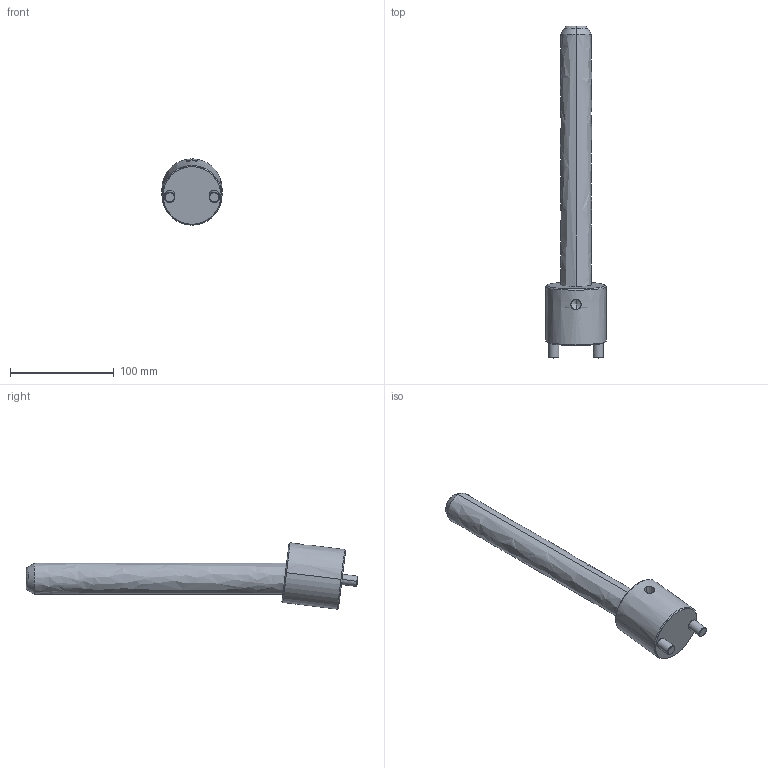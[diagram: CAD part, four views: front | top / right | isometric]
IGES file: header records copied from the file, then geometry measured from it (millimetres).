
Start section: START RECORD GO HERE.
Global section: file name: CI0730250.igs; native system: DASSAULT SYSTEMES CATIA V5 R20 - www.3ds.com; preprocessor: CATIA Version 5 Release 20 ; author: r.borello; organization: CFTORINO; date: 20190624.093600; units: millimetre
Bounding box: 58 x 320.76 x 64.03 mm (x, y, z)
Surface area: 49719.5 mm2 (no closed solid volume)
Topology: 0 solids, 0 shells, 39 faces, 162 edges, 160 vertices
Faces by surface type: revolution 32, plane 7
